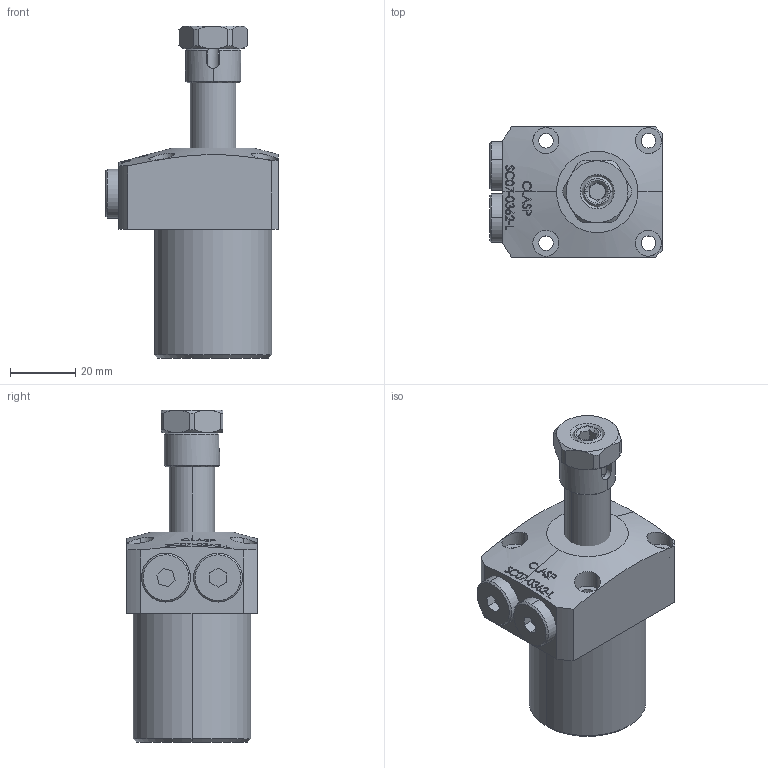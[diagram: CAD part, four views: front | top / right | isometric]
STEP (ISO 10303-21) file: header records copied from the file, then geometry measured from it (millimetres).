
FILE_DESCRIPTION (( 'STEP AP203' ), '1' );
FILE_NAME ('SC07-0362-L.STEP', '2022-07-05T17:47:40', ( '' ), ( '' ), 'SwSTEP 2.0', 'SolidWorks 2017', '' );
FILE_SCHEMA (( 'CONFIG_CONTROL_DESIGN' ));
Length unit declared in the file: millimetre
Products named in the file (6): SC07-0362-L; SC-07-0362-L BODY; SC-07-0362-L-Piston; SC-07-0362-L-05 plug; SC-07-0362-L-04 sleeve; SC-07-0362-L-03-nut
Assembly tree (6 placements, depth 2):
  SC07-0362-L
    SC-07-0362-L BODY
    SC-07-0362-L-Piston
    SC-07-0362-L-05 plug  x2
    SC-07-0362-L-04 sleeve
    SC-07-0362-L-03-nut
Bounding box: 53 x 40 x 102 mm (x, y, z)
Volume: 95050.1 mm3; surface area: 21796.9 mm2
Topology: 6 solids, 6 shells, 363 faces, 929 edges, 605 vertices
Faces by surface type: plane 150, bspline 101, cylinder 62, cone 48, sphere 2
Entity records: 16881 total; most frequent: CARTESIAN_POINT 8522, ORIENTED_EDGE 1794, DIRECTION 1234, EDGE_CURVE 897, VERTEX_POINT 585, AXIS2_PLACEMENT_3D 421, EDGE_LOOP 396, LINE 392
